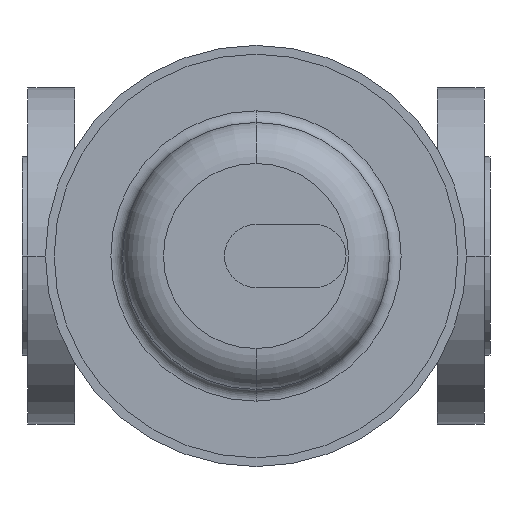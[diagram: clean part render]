
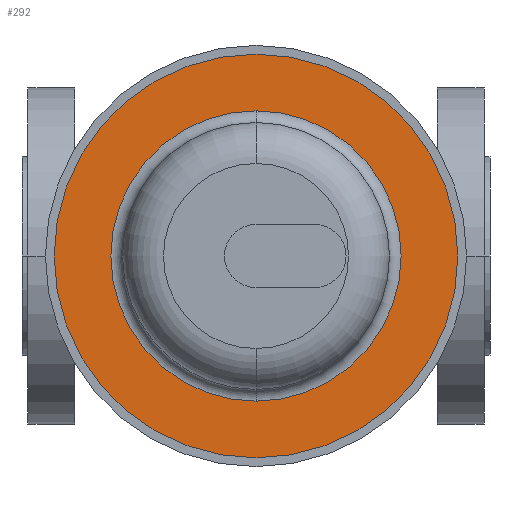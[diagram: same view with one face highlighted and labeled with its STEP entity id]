
A CAD part, front view. The second image highlights one B-rep face of the part: STEP entity #292.
In plain terms, the highlighted planar face has unit normal (0, -1, 0).
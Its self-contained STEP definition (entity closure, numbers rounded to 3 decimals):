
#292 = ADVANCED_FACE( '', ( #680, #681 ), #682, .T. );
#680 = FACE_OUTER_BOUND( '', #1084, .T. );
#681 = FACE_BOUND( '', #1085, .T. );
#682 = PLANE( '', #1086 );
#1084 = EDGE_LOOP( '', ( #2427, #2428 ) );
#1085 = EDGE_LOOP( '', ( #2429, #2430, #2431 ) );
#1086 = AXIS2_PLACEMENT_3D( '', #2432, #2433, #2434 );
#2427 = ORIENTED_EDGE( '', *, *, #2912, .F. );
#2428 = ORIENTED_EDGE( '', *, *, #2947, .F. );
#2429 = ORIENTED_EDGE( '', *, *, #2945, .T. );
#2430 = ORIENTED_EDGE( '', *, *, #2919, .T. );
#2431 = ORIENTED_EDGE( '', *, *, #2946, .T. );
#2432 = CARTESIAN_POINT( '', ( 139.313, -404.5, 0. ) );
#2433 = DIRECTION( '', ( 0., -1., 0. ) );
#2434 = DIRECTION( '', ( -1., 0., 0. ) );
#2912 = EDGE_CURVE( '', #3596, #3599, #3600, .T. );
#2919 = EDGE_CURVE( '', #3605, #3611, #3613, .T. );
#2945 = EDGE_CURVE( '', #3655, #3605, #3656, .T. );
#2946 = EDGE_CURVE( '', #3611, #3655, #3657, .T. );
#2947 = EDGE_CURVE( '', #3599, #3596, #3658, .T. );
#3596 = VERTEX_POINT( '', #4829 );
#3599 = VERTEX_POINT( '', #4833 );
#3600 = CIRCLE( '', #4834, 69. );
#3605 = VERTEX_POINT( '', #4840 );
#3611 = VERTEX_POINT( '', #4846 );
#3613 = CIRCLE( '', #4848, 49.625 );
#3655 = VERTEX_POINT( '', #4900 );
#3656 = CIRCLE( '', #4901, 49.625 );
#3657 = CIRCLE( '', #4902, 49.625 );
#3658 = CIRCLE( '', #4903, 69. );
#4829 = CARTESIAN_POINT( '', ( 149., -404.5, 0. ) );
#4833 = CARTESIAN_POINT( '', ( 11., -404.5, 0. ) );
#4834 = AXIS2_PLACEMENT_3D( '', #5792, #5793, #5794 );
#4840 = CARTESIAN_POINT( '', ( 80., -404.5, -49.625 ) );
#4846 = CARTESIAN_POINT( '', ( 80., -404.5, 49.625 ) );
#4848 = AXIS2_PLACEMENT_3D( '', #5811, #5812, #5813 );
#4900 = CARTESIAN_POINT( '', ( 129.625, -404.5, 0. ) );
#4901 = AXIS2_PLACEMENT_3D( '', #5869, #5870, #5871 );
#4902 = AXIS2_PLACEMENT_3D( '', #5872, #5873, #5874 );
#4903 = AXIS2_PLACEMENT_3D( '', #5875, #5876, #5877 );
#5792 = CARTESIAN_POINT( '', ( 80., -404.5, 0. ) );
#5793 = DIRECTION( '', ( 0., 1., 0. ) );
#5794 = DIRECTION( '', ( 1., 0., 0. ) );
#5811 = CARTESIAN_POINT( '', ( 80., -404.5, 0. ) );
#5812 = DIRECTION( '', ( 0., 1., 0. ) );
#5813 = DIRECTION( '', ( 1., 0., 0. ) );
#5869 = CARTESIAN_POINT( '', ( 80., -404.5, 0. ) );
#5870 = DIRECTION( '', ( 0., 1., 0. ) );
#5871 = DIRECTION( '', ( 1., 0., 0. ) );
#5872 = CARTESIAN_POINT( '', ( 80., -404.5, 0. ) );
#5873 = DIRECTION( '', ( 0., 1., 0. ) );
#5874 = DIRECTION( '', ( 1., 0., 0. ) );
#5875 = CARTESIAN_POINT( '', ( 80., -404.5, 0. ) );
#5876 = DIRECTION( '', ( 0., 1., 0. ) );
#5877 = DIRECTION( '', ( 1., 0., 0. ) );
